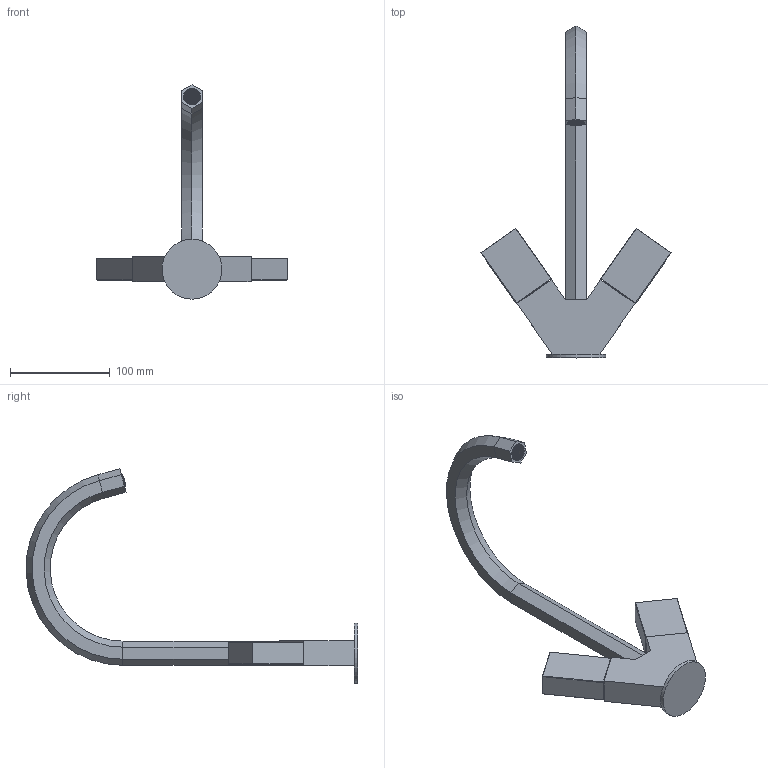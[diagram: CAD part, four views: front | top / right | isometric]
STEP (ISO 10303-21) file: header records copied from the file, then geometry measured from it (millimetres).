
FILE_DESCRIPTION(('STEP AP214'),'2;1');
FILE_NAME('DIS_3D_N456SWU.stp','2022-02-17T12:52:04',(''),(''),'2015.2.119','THINKDESIGN','');
FILE_SCHEMA(('AUTOMOTIVE_DESIGN'));
Length unit declared in the file: inch
Products named in the file (1): top
Bounding box: 190.78 x 332.52 x 214.71 mm (x, y, z)
Volume: 322763.8 mm3; surface area: 116596.2 mm2
Topology: 10 solids, 10 shells, 2632 faces, 14117 edges, 13867 vertices
Faces by surface type: plane 1871, bspline 471, cylinder 290
Full cylindrical faces by diameter (mm): 60 x1
Entity records: 152436 total; most frequent: CARTESIAN_POINT 81730, COMPOSITE_CURVE_SEGMENT 13200, DIRECTION 11992, VECTOR 6276, LINE 6276, TRIMMED_CURVE 6210, B_SPLINE_CURVE_WITH_KNOTS 4433, AXIS2_PLACEMENT_3D 2858
